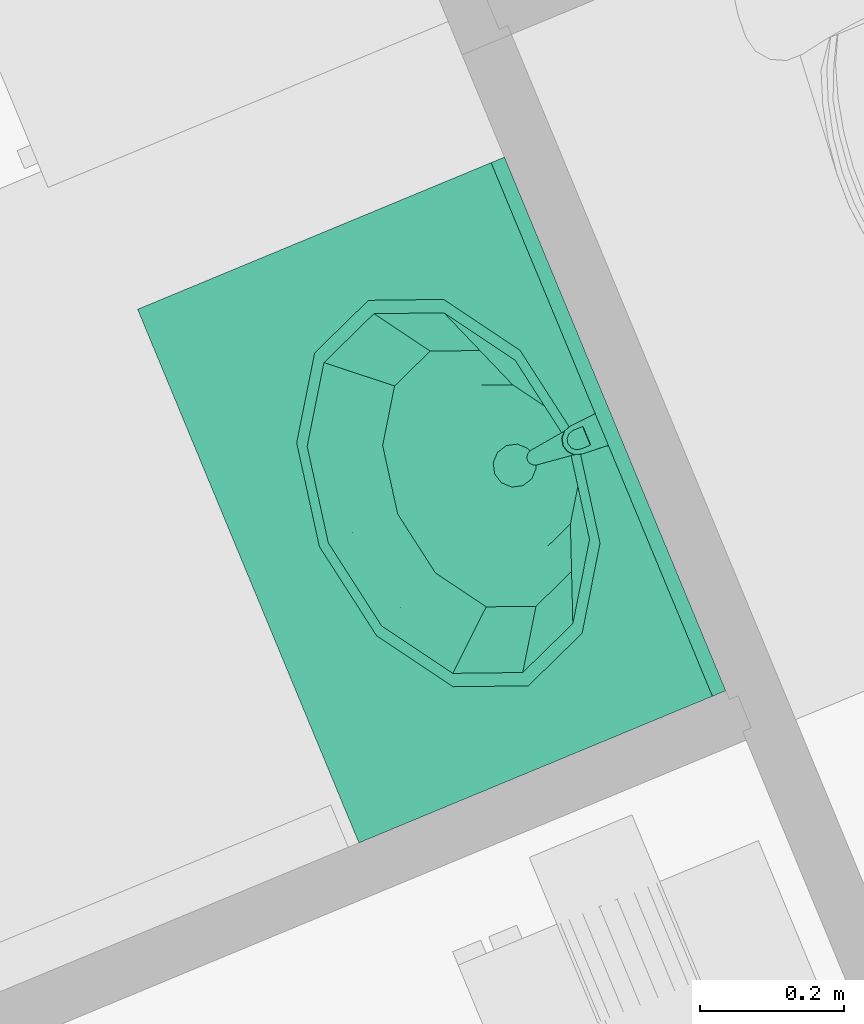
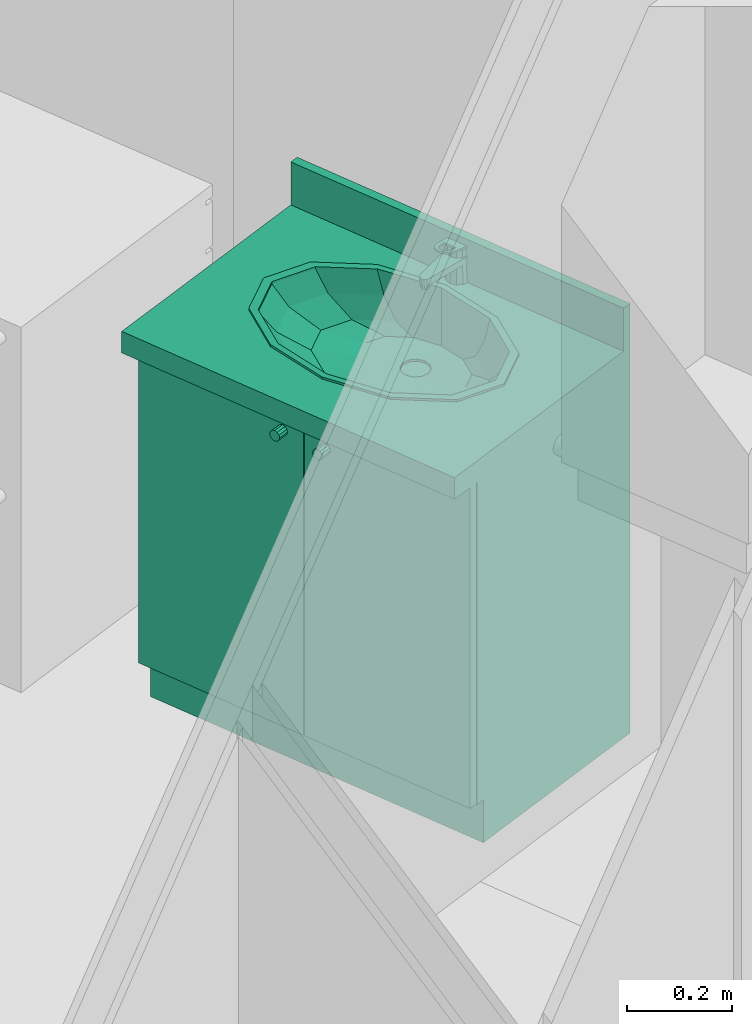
# One storey, part 66 of 91: 1 flow terminal.
"""IFC2X3 building model written with IfcOpenShell, lengths in metres."""

from ifc_helpers import new_model, entity, si_unit, converted_unit, derived_unit, money_unit, direction, frame, origin_with_axes, place, context, subcontext, project, spatial, open_shell, faceted_brep, surface_model, source, transform, mapped, type_object, element, save


model = new_model("IFC2X3")

# Units and contexts
model_context = context("Model", 3, precision=1e-05, world=origin_with_axes(), true_north=direction((0.0, 1.0)))
body_context = subcontext(model_context, "Body", "Model", "MODEL_VIEW")
ifc_project = project(units=[si_unit("LENGTHUNIT", "METRE"), si_unit("AREAUNIT", "SQUARE_METRE"), si_unit("VOLUMEUNIT", "CUBIC_METRE"), converted_unit("PLANEANGLEUNIT", "DEGREE", entity("IfcPlaneAngleMeasure", 0.0174532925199), si_unit("PLANEANGLEUNIT", "RADIAN"), dimensions=[0, 0, 0, 0, 0, 0, 0]), si_unit("SOLIDANGLEUNIT", "STERADIAN"), money_unit("EUR"), converted_unit("TIMEUNIT", "Year", entity("IfcTimeMeasure", 31556926.0), si_unit("TIMEUNIT", "SECOND"), dimensions=[0, 0, 1, 0, 0, 0, 0]), si_unit("MASSUNIT", "GRAM", prefix="KILO"), si_unit("THERMODYNAMICTEMPERATUREUNIT", "DEGREE_CELSIUS"), si_unit("LUMINOUSINTENSITYUNIT", "LUMEN"), si_unit("ENERGYUNIT", "JOULE", prefix="MEGA"), derived_unit("THERMALCONDUCTANCEUNIT", [(si_unit("POWERUNIT", "WATT"), 1), (si_unit("LENGTHUNIT", "METRE"), -1), (si_unit("THERMODYNAMICTEMPERATUREUNIT", "KELVIN"), -1)]), derived_unit("SPECIFICHEATCAPACITYUNIT", [(si_unit("ENERGYUNIT", "JOULE"), 1), (si_unit("MASSUNIT", "GRAM", prefix="KILO"), -1), (si_unit("THERMODYNAMICTEMPERATUREUNIT", "KELVIN"), -1)]), derived_unit("MASSDENSITYUNIT", [(si_unit("MASSUNIT", "GRAM", prefix="KILO"), 1), (si_unit("VOLUMEUNIT", "CUBIC_METRE"), -1)])], contexts=[model_context])

# Site, building, storey
site_placement = place(None, origin_with_axes())
site = spatial("IfcSite", under=ifc_project, at=site_placement, Name="Site", CompositionType="ELEMENT")
building_placement = place(site_placement, origin_with_axes())
building = spatial("IfcBuilding", under=site, at=building_placement, Name="Bâtiment", CompositionType="ELEMENT")
storey_placement = place(building_placement, frame((0.0, 0.0, 5.44), z_axis=(0.0, 0.0, 1.0), x_axis=(1.0, 0.0, 0.0)))
storey = spatial("IfcBuildingStorey", under=building, at=storey_placement, Name="R+2", CompositionType="ELEMENT", Elevation=5.44)

# Flow terminal
sanitary_terminal_type = type_object("IfcSanitaryTerminalType", Name="Lavabo sur meuble 23", PredefinedType="NOTDEFINED")
shared_shape = source(origin_with_axes(), body_context, "Body", "SurfaceModel", [
    faceted_brep([(0.0, 0.09, 0.0), (0.0, 0.09, 0.1), (-0.8, 0.09, 0.1), (-0.8, 0.09, 0.0), (0.0, 0.55, 0.0), (0.0, 0.55, 0.1), (-0.8, 0.55, 0.1), (-0.8, 0.55, 0.0)], [[[0, 1, 2, 3]], [[4, 5, 1, 0]], [[1, 5, 6, 2]], [[3, 2, 6, 7]], [[0, 3, 7, 4]], [[7, 6, 5, 4]]]),
    faceted_brep([(0.0, 0.07, 0.1), (0.0, 0.07, 0.12), (-0.02, 0.07, 0.12), (-0.02, 0.07, 0.1), (0.0, 0.55, 0.1), (0.0, 0.55, 0.12), (-0.02, 0.55, 0.12), (-0.78, 0.55, 0.12), (-0.8, 0.55, 0.12), (-0.8, 0.07, 0.12), (-0.78, 0.07, 0.12), (-0.78, 0.07, 0.1), (-0.8, 0.07, 0.1), (-0.8, 0.55, 0.1), (-0.78, 0.55, 0.1), (-0.02, 0.55, 0.1)], [[[0, 1, 2, 3]], [[4, 5, 1, 0]], [[1, 5, 6, 7, 8, 9, 10, 2]], [[3, 2, 10, 11]], [[0, 3, 11, 12, 13, 14, 15, 4]], [[15, 6, 5, 4]], [[14, 7, 6, 15]], [[13, 8, 7, 14]], [[12, 9, 8, 13]], [[11, 10, 9, 12]]]),
    faceted_brep([(0.0, 0.07, 0.12), (0.0, 0.07, 0.85), (-0.02, 0.07, 0.85), (-0.02, 0.07, 0.12), (0.0, 0.55, 0.12), (0.0, 0.55, 0.85), (-0.8, 0.55, 0.85), (-0.8, 0.07, 0.85), (-0.78, 0.07, 0.85), (-0.78, 0.53, 0.85), (-0.02, 0.53, 0.85), (-0.02, 0.53, 0.12), (-0.78, 0.53, 0.12), (-0.78, 0.07, 0.12), (-0.8, 0.07, 0.12), (-0.8, 0.55, 0.12)], [[[0, 1, 2, 3]], [[4, 5, 1, 0]], [[1, 5, 6, 7, 8, 9, 10, 2]], [[3, 2, 10, 11]], [[0, 3, 11, 12, 13, 14, 15, 4]], [[15, 6, 5, 4]], [[14, 7, 6, 15]], [[13, 8, 7, 14]], [[12, 9, 8, 13]], [[11, 10, 9, 12]]]),
    faceted_brep([(-0.78, 0.07, 0.323333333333), (-0.78, 0.07, 0.343333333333), (-0.78, 0.53, 0.343333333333), (-0.78, 0.53, 0.323333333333), (-0.02, 0.07, 0.323333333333), (-0.02, 0.07, 0.343333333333), (-0.02, 0.53, 0.343333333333), (-0.02, 0.53, 0.323333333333)], [[[0, 1, 2, 3]], [[4, 5, 1, 0]], [[1, 5, 6, 2]], [[3, 2, 6, 7]], [[0, 3, 7, 4]], [[7, 6, 5, 4]]]),
    faceted_brep([(-0.78, 0.07, 0.566666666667), (-0.78, 0.07, 0.586666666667), (-0.78, 0.53, 0.586666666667), (-0.78, 0.53, 0.566666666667), (-0.02, 0.07, 0.566666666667), (-0.02, 0.07, 0.586666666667), (-0.02, 0.53, 0.586666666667), (-0.02, 0.53, 0.566666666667)], [[[0, 1, 2, 3]], [[4, 5, 1, 0]], [[1, 5, 6, 2]], [[3, 2, 6, 7]], [[0, 3, 7, 4]], [[7, 6, 5, 4]]]),
    faceted_brep([(0.0, 0.55, 0.85), (0.0, 0.0, 0.85), (-0.8, 0.0, 0.85), (-0.8, 0.55, 0.85), (-0.535, 0.144115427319, 0.85), (-0.4, 0.12, 0.85), (-0.265, 0.144115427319, 0.85), (-0.166173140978, 0.21, 0.85), (-0.13, 0.3, 0.85), (-0.166173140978, 0.39, 0.85), (-0.265, 0.455884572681, 0.85), (-0.4, 0.48, 0.85), (-0.535, 0.455884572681, 0.85), (-0.633826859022, 0.39, 0.85), (-0.67, 0.3, 0.85), (-0.633826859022, 0.21, 0.85), (0.0, 0.55, 0.9), (0.0, 0.0, 0.9), (-0.8, 0.0, 0.9), (-0.8, 0.55, 0.9), (-0.4, 0.12, 0.9), (-0.535, 0.144115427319, 0.9), (-0.265, 0.144115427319, 0.9), (-0.166173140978, 0.21, 0.9), (-0.13, 0.3, 0.9), (-0.166173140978, 0.39, 0.9), (-0.265, 0.455884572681, 0.9), (-0.4, 0.48, 0.9), (-0.535, 0.455884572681, 0.9), (-0.633826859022, 0.39, 0.9), (-0.67, 0.3, 0.9), (-0.633826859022, 0.21, 0.9)], [[[0, 1, 2, 3], [4, 5, 6, 7, 8, 9, 10, 11, 12, 13, 14, 15]], [[1, 0, 16, 17]], [[2, 1, 17, 18]], [[3, 2, 18, 19]], [[0, 3, 19, 16]], [[20, 5, 4, 21]], [[22, 6, 5, 20]], [[23, 7, 6, 22]], [[24, 8, 7, 23]], [[25, 9, 8, 24]], [[26, 10, 9, 25]], [[27, 11, 10, 26]], [[28, 12, 11, 27]], [[29, 13, 12, 28]], [[30, 14, 13, 29]], [[31, 15, 14, 30]], [[21, 4, 15, 31]], [[18, 17, 16, 19], [28, 27, 26, 25, 24, 23, 22, 20, 21, 31, 30, 29]]]),
    faceted_brep([(0.0, 0.53, 0.9), (0.0, 0.53, 1.0), (-0.8, 0.53, 1.0), (-0.8, 0.53, 0.9), (0.0, 0.55, 0.9), (0.0, 0.55, 1.0), (-0.8, 0.55, 1.0), (-0.8, 0.55, 0.9)], [[[0, 1, 2, 3]], [[4, 5, 1, 0]], [[1, 5, 6, 2]], [[3, 2, 6, 7]], [[0, 3, 7, 4]], [[7, 6, 5, 4]]]),
    faceted_brep([(-0.689, 0.3, 0.905), (-0.650281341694, 0.396691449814, 0.905), (-0.650281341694, 0.396691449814, 0.9), (-0.689, 0.3, 0.9), (-0.650281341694, 0.203308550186, 0.905), (-0.5445, 0.132525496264, 0.905), (-0.4, 0.106617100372, 0.905), (-0.2555, 0.132525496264, 0.905), (-0.149718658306, 0.203308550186, 0.905), (-0.111, 0.3, 0.905), (-0.149718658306, 0.396691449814, 0.905), (-0.2555, 0.467474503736, 0.905), (-0.4, 0.493382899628, 0.905), (-0.5445, 0.467474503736, 0.905), (-0.669, 0.3, 0.905), (-0.632960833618, 0.39, 0.905), (-0.5345, 0.455884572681, 0.905), (-0.4, 0.48, 0.905), (-0.2655, 0.455884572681, 0.905), (-0.167039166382, 0.39, 0.905), (-0.131, 0.3, 0.905), (-0.167039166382, 0.21, 0.905), (-0.2655, 0.144115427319, 0.905), (-0.4, 0.12, 0.905), (-0.5345, 0.144115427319, 0.905), (-0.632960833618, 0.21, 0.905), (-0.5445, 0.467474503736, 0.9), (-0.4, 0.493382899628, 0.9), (-0.2555, 0.467474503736, 0.9), (-0.149718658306, 0.396691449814, 0.9), (-0.111, 0.3, 0.9), (-0.149718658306, 0.203308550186, 0.9), (-0.2555, 0.132525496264, 0.9), (-0.4, 0.106617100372, 0.9), (-0.5445, 0.132525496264, 0.9), (-0.650281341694, 0.203308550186, 0.9), (-0.669, 0.3, 0.9), (-0.632960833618, 0.21, 0.9), (-0.5345, 0.144115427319, 0.9), (-0.4, 0.12, 0.9), (-0.2655, 0.144115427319, 0.9), (-0.167039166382, 0.21, 0.9), (-0.131, 0.3, 0.9), (-0.167039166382, 0.39, 0.9), (-0.2655, 0.455884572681, 0.9), (-0.4, 0.48, 0.9), (-0.5345, 0.455884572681, 0.9), (-0.632960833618, 0.39, 0.9)], [[[0, 1, 2, 3]], [[0, 4, 5, 6, 7, 8, 9, 10, 11, 12, 13, 1], [14, 15, 16, 17, 18, 19, 20, 21, 22, 23, 24, 25]], [[1, 13, 26, 2]], [[3, 2, 26, 27, 28, 29, 30, 31, 32, 33, 34, 35], [36, 37, 38, 39, 40, 41, 42, 43, 44, 45, 46, 47]], [[4, 0, 3, 35]], [[5, 4, 35, 34]], [[6, 5, 34, 33]], [[7, 6, 33, 32]], [[8, 7, 32, 31]], [[9, 8, 31, 30]], [[10, 9, 30, 29]], [[11, 10, 29, 28]], [[12, 11, 28, 27]], [[13, 12, 27, 26]], [[15, 14, 36, 47]], [[16, 15, 47, 46]], [[17, 16, 46, 45]], [[18, 17, 45, 44]], [[19, 18, 44, 43]], [[20, 19, 43, 42]], [[21, 20, 42, 41]], [[22, 21, 41, 40]], [[23, 22, 40, 39]], [[24, 23, 39, 38]], [[25, 24, 38, 37]], [[14, 25, 37, 36]]]),
    surface_model("IfcShellBasedSurfaceModel", [(-0.4, 0.48, 0.9), (-0.5345, 0.455884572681, 0.9), (-0.52105, 0.458296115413, 0.848), (-0.4, 0.48, 0.848), (-0.632960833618, 0.39, 0.9), (-0.609664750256, 0.399, 0.848), (-0.2655, 0.455884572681, 0.9), (-0.27895, 0.458296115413, 0.848), (-0.669, 0.3, 0.9), (-0.6421, 0.318, 0.848), (-0.167039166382, 0.39, 0.9), (-0.190335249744, 0.399, 0.848), (-0.632960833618, 0.21, 0.9), (-0.609664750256, 0.237, 0.848), (-0.131, 0.3, 0.9), (-0.1579, 0.318, 0.848), (-0.5345, 0.144115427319, 0.9), (-0.52105, 0.177703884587, 0.848), (-0.167039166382, 0.21, 0.9), (-0.190335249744, 0.237, 0.848), (-0.4, 0.12, 0.9), (-0.4, 0.156, 0.848), (-0.2655, 0.144115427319, 0.9), (-0.27895, 0.177703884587, 0.848)], [open_shell([[[0, 1, 2, 3]], [[1, 4, 5, 2]], [[6, 0, 3, 7]], [[4, 8, 9, 5]], [[10, 6, 7, 11]], [[8, 12, 13, 9]], [[14, 10, 11, 15]], [[12, 16, 17, 13]], [[18, 14, 15, 19]], [[16, 20, 21, 17]], [[22, 18, 19, 23]], [[20, 22, 23, 21]]])]),
    surface_model("IfcShellBasedSurfaceModel", [(-0.4, 0.48, 0.848), (-0.52105, 0.458296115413, 0.848), (-0.4956295, 0.462853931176, 0.796), (-0.4, 0.48, 0.796), (-0.609664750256, 0.399, 0.848), (-0.565635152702, 0.41601, 0.796), (-0.27895, 0.458296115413, 0.848), (-0.3043705, 0.462853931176, 0.796), (-0.6421, 0.318, 0.848), (-0.591259, 0.35202, 0.796), (-0.190335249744, 0.399, 0.848), (-0.234364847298, 0.41601, 0.796), (-0.609664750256, 0.237, 0.848), (-0.565635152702, 0.28803, 0.796), (-0.1579, 0.318, 0.848), (-0.208741, 0.35202, 0.796), (-0.52105, 0.177703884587, 0.848), (-0.4956295, 0.241186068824, 0.796), (-0.190335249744, 0.237, 0.848), (-0.234364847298, 0.28803, 0.796), (-0.4, 0.156, 0.848), (-0.4, 0.22404, 0.796), (-0.27895, 0.177703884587, 0.848), (-0.3043705, 0.241186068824, 0.796)], [open_shell([[[0, 1, 2, 3]], [[1, 4, 5, 2]], [[6, 0, 3, 7]], [[4, 8, 9, 5]], [[10, 6, 7, 11]], [[8, 12, 13, 9]], [[14, 10, 11, 15]], [[12, 16, 17, 13]], [[18, 14, 15, 19]], [[16, 20, 21, 17]], [[22, 18, 19, 23]], [[20, 22, 23, 21]]])]),
    surface_model("IfcShellBasedSurfaceModel", [(-0.4, 0.48, 0.796), (-0.4956295, 0.462853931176, 0.796), (-0.460246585, 0.469197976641, 0.77), (-0.4, 0.48, 0.77), (-0.565635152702, 0.41601, 0.796), (-0.504350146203, 0.4396863, 0.77), (-0.3043705, 0.462853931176, 0.796), (-0.339753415, 0.469197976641, 0.77), (-0.591259, 0.35202, 0.796), (-0.52049317, 0.3993726, 0.77), (-0.234364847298, 0.41601, 0.796), (-0.295649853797, 0.4396863, 0.77), (-0.565635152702, 0.28803, 0.796), (-0.504350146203, 0.3590589, 0.77), (-0.208741, 0.35202, 0.796), (-0.27950683, 0.3993726, 0.77), (-0.4956295, 0.241186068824, 0.796), (-0.460246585, 0.329547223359, 0.77), (-0.234364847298, 0.28803, 0.796), (-0.295649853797, 0.3590589, 0.77), (-0.4, 0.22404, 0.796), (-0.4, 0.3187452, 0.77), (-0.3043705, 0.241186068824, 0.796), (-0.339753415, 0.329547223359, 0.77)], [open_shell([[[0, 1, 2, 3]], [[1, 4, 5, 2]], [[6, 0, 3, 7]], [[4, 8, 9, 5]], [[10, 6, 7, 11]], [[8, 12, 13, 9]], [[14, 10, 11, 15]], [[12, 16, 17, 13]], [[18, 14, 15, 19]], [[16, 20, 21, 17]], [[22, 18, 19, 23]], [[20, 22, 23, 21]]])]),
    surface_model("IfcShellBasedSurfaceModel", [(-0.4, 0.48, 0.77), (-0.460246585, 0.469197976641, 0.77), (-0.415, 0.425353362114, 0.763), (-0.425980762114, 0.4143726, 0.763), (-0.4, 0.4293726, 0.763), (-0.504350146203, 0.4396863, 0.77), (-0.339753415, 0.469197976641, 0.77), (-0.43, 0.3993726, 0.763), (-0.385, 0.425353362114, 0.763), (-0.52049317, 0.3993726, 0.77), (-0.295649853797, 0.4396863, 0.77), (-0.425980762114, 0.3843726, 0.763), (-0.374019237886, 0.4143726, 0.763), (-0.504350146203, 0.3590589, 0.77), (-0.27950683, 0.3993726, 0.77), (-0.415, 0.373391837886, 0.763), (-0.37, 0.3993726, 0.763), (-0.460246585, 0.329547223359, 0.77), (-0.295649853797, 0.3590589, 0.77), (-0.4, 0.3693726, 0.763), (-0.374019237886, 0.3843726, 0.763), (-0.4, 0.3187452, 0.77), (-0.339753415, 0.329547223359, 0.77), (-0.385, 0.373391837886, 0.763)], [open_shell([[[0, 1, 2]], [[1, 3, 2]], [[0, 2, 4]], [[1, 5, 3]], [[6, 0, 4]], [[5, 7, 3]], [[6, 4, 8]], [[5, 9, 7]], [[10, 6, 8]], [[9, 11, 7]], [[10, 8, 12]], [[9, 13, 11]], [[14, 10, 12]], [[13, 15, 11]], [[14, 12, 16]], [[13, 17, 15]], [[18, 14, 16]], [[17, 19, 15]], [[18, 16, 20]], [[17, 21, 19]], [[22, 18, 20]], [[21, 23, 19]], [[22, 20, 23]], [[21, 22, 23]]])]),
    surface_model("IfcShellBasedSurfaceModel", [(-0.43, 0.3993726, 0.763), (-0.425980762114, 0.4143726, 0.763), (-0.425980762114, 0.4143726, 0.758), (-0.43, 0.3993726, 0.758), (-0.415, 0.425353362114, 0.763), (-0.415, 0.425353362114, 0.758), (-0.4, 0.4293726, 0.758), (-0.385, 0.425353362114, 0.758), (-0.374019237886, 0.4143726, 0.758), (-0.37, 0.3993726, 0.758), (-0.374019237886, 0.3843726, 0.758), (-0.385, 0.373391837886, 0.758), (-0.4, 0.3693726, 0.758), (-0.415, 0.373391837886, 0.758), (-0.425980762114, 0.3843726, 0.758), (-0.425980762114, 0.3843726, 0.763), (-0.4, 0.4293726, 0.763), (-0.385, 0.425353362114, 0.763), (-0.374019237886, 0.4143726, 0.763), (-0.37, 0.3993726, 0.763), (-0.374019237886, 0.3843726, 0.763), (-0.385, 0.373391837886, 0.763), (-0.4, 0.3693726, 0.763), (-0.415, 0.373391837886, 0.763)], [open_shell([[[0, 1, 2, 3]], [[1, 4, 5, 2]], [[3, 2, 5, 6, 7, 8, 9, 10, 11, 12, 13, 14]], [[15, 0, 3, 14]], [[4, 16, 6, 5]], [[16, 17, 7, 6]], [[17, 18, 8, 7]], [[18, 19, 9, 8]], [[19, 20, 10, 9]], [[20, 21, 11, 10]], [[21, 22, 12, 11]], [[22, 23, 13, 12]], [[23, 15, 14, 13]]])]),
    faceted_brep([(-0.4125, 0.554150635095, 0.9), (-0.410587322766, 0.550837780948, 0.976507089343), (-0.4, 0.553701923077, 0.975961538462), (-0.4, 0.5575, 0.9), (-0.421650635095, 0.545, 0.9), (-0.418273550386, 0.543050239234, 0.977990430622), (-0.421, 0.5325, 0.98), (-0.418100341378, 0.522049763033, 0.981990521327), (-0.410414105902, 0.514462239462, 0.983435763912), (-0.4, 0.511698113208, 0.983962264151), (-0.389585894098, 0.514462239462, 0.983435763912), (-0.381899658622, 0.522049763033, 0.981990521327), (-0.379, 0.5325, 0.98), (-0.381726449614, 0.543050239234, 0.977990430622), (-0.389412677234, 0.550837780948, 0.976507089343), (-0.3875, 0.554150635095, 0.9), (-0.378349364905, 0.545, 0.9), (-0.375, 0.5325, 0.9), (-0.378349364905, 0.52, 0.9), (-0.3875, 0.510849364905, 0.9), (-0.4, 0.5075, 0.9), (-0.4125, 0.510849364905, 0.9), (-0.421650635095, 0.52, 0.9), (-0.425, 0.5325, 0.9)], [[[0, 1, 2, 3]], [[4, 5, 1, 0]], [[1, 5, 6, 7, 8, 9, 10, 11, 12, 13, 14, 2]], [[3, 2, 14, 15]], [[0, 3, 15, 16, 17, 18, 19, 20, 21, 22, 23, 4]], [[23, 6, 5, 4]], [[22, 7, 6, 23]], [[21, 8, 7, 22]], [[20, 9, 8, 21]], [[19, 10, 9, 20]], [[18, 11, 10, 19]], [[17, 12, 11, 18]], [[16, 13, 12, 17]], [[15, 14, 13, 16]]]),
    faceted_brep([(-0.409, 0.4295, 0.935), (-0.409, 0.4295, 0.945), (-0.407794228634, 0.434, 0.945), (-0.407794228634, 0.434, 0.935), (-0.407794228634, 0.425, 0.935), (-0.407794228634, 0.425, 0.945), (-0.4045, 0.421705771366, 0.945), (-0.4, 0.4205, 0.945), (-0.3955, 0.421705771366, 0.945), (-0.392205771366, 0.425, 0.945), (-0.391, 0.4295, 0.945), (-0.392205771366, 0.434, 0.945), (-0.3955, 0.437294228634, 0.945), (-0.4, 0.4385, 0.945), (-0.4045, 0.437294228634, 0.945), (-0.4045, 0.437294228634, 0.935), (-0.4, 0.4385, 0.935), (-0.3955, 0.437294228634, 0.935), (-0.392205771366, 0.434, 0.935), (-0.391, 0.4295, 0.935), (-0.392205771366, 0.425, 0.935), (-0.3955, 0.421705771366, 0.935), (-0.4, 0.4205, 0.935), (-0.4045, 0.421705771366, 0.935)], [[[0, 1, 2, 3]], [[4, 5, 1, 0]], [[1, 5, 6, 7, 8, 9, 10, 11, 12, 13, 14, 2]], [[3, 2, 14, 15]], [[0, 3, 15, 16, 17, 18, 19, 20, 21, 22, 23, 4]], [[23, 6, 5, 4]], [[22, 7, 6, 23]], [[21, 8, 7, 22]], [[20, 9, 8, 21]], [[19, 10, 9, 20]], [[18, 11, 10, 19]], [[17, 12, 11, 18]], [[16, 13, 12, 17]], [[15, 14, 13, 16]]]),
    faceted_brep([(-0.387128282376, 0.552756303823, 0.96), (-0.40000000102, 0.556499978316, 0.96), (-0.412871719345, 0.552756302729, 0.96), (-0.421727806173, 0.542693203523, 0.96), (-0.423805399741, 0.529450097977, 0.96), (-0.410912, 0.4281117, 0.96), (-0.409028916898, 0.423216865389, 0.96), (-0.405093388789, 0.419750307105, 0.96), (-0.400000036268, 0.41850003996, 0.96), (-0.394906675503, 0.419750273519, 0.96), (-0.390971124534, 0.423216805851, 0.96), (-0.389088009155, 0.428111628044, 0.96), (-0.3761946, 0.5294501, 0.96), (-0.378272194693, 0.54269320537, 0.96), (-0.411, 0.551552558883, 0.96), (-0.4, 0.5545, 0.96), (-0.389, 0.551552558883, 0.96), (-0.380947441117, 0.5435, 0.96), (-0.378, 0.5325, 0.96), (-0.380947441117, 0.5215, 0.96), (-0.389, 0.513447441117, 0.96), (-0.4, 0.5105, 0.96), (-0.411, 0.513447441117, 0.96), (-0.419052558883, 0.5215, 0.96), (-0.422, 0.5325, 0.96), (-0.419052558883, 0.5435, 0.96), (-0.387128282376, 0.552756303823, 0.945), (-0.40000000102, 0.556499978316, 0.945), (-0.412871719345, 0.552756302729, 0.945), (-0.421727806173, 0.542693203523, 0.945), (-0.423805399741, 0.529450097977, 0.945), (-0.410912, 0.4281117, 0.945), (-0.409028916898, 0.423216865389, 0.945), (-0.405093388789, 0.419750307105, 0.945), (-0.400000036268, 0.41850003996, 0.945), (-0.394906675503, 0.419750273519, 0.945), (-0.390971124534, 0.423216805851, 0.945), (-0.389088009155, 0.428111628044, 0.945), (-0.3761946, 0.5294501, 0.945), (-0.378272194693, 0.54269320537, 0.945), (-0.4, 0.55525, 0.945), (-0.411375, 0.552202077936, 0.945), (-0.388625, 0.552202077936, 0.945), (-0.380297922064, 0.543875, 0.945), (-0.37725, 0.5325, 0.945), (-0.380297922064, 0.521125, 0.945), (-0.388625, 0.512797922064, 0.945), (-0.4, 0.50975, 0.945), (-0.411375, 0.512797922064, 0.945), (-0.419702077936, 0.521125, 0.945), (-0.42275, 0.5325, 0.945), (-0.419702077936, 0.543875, 0.945)], [[[0, 1, 2, 3, 4, 5, 6, 7, 8, 9, 10, 11, 12, 13], [14, 15, 16, 17, 18, 19, 20, 21, 22, 23, 24, 25]], [[26, 27, 1, 0]], [[27, 28, 2, 1]], [[28, 29, 3, 2]], [[29, 30, 4, 3]], [[30, 31, 5, 4]], [[31, 32, 6, 5]], [[32, 33, 7, 6]], [[33, 34, 8, 7]], [[34, 35, 9, 8]], [[35, 36, 10, 9]], [[36, 37, 11, 10]], [[37, 38, 12, 11]], [[38, 39, 13, 12]], [[39, 26, 0, 13]], [[40, 15, 14, 41]], [[42, 16, 15, 40]], [[16, 42, 43, 17]], [[17, 43, 44, 18]], [[18, 44, 45, 19]], [[19, 45, 46, 20]], [[20, 46, 47, 21]], [[48, 22, 21, 47]], [[49, 23, 22, 48]], [[50, 24, 23, 49]], [[51, 25, 24, 50]], [[41, 14, 25, 51]], [[34, 33, 32, 31, 30, 29, 28, 27, 26, 39, 38, 37, 36, 35], [48, 47, 46, 45, 44, 43, 42, 40, 41, 51, 50, 49]]]),
    faceted_brep([(-0.423893, 0.53080743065, 0.980322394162), (-0.423893, 0.531555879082, 0.984251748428), (-0.421296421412, 0.544023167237, 0.981877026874), (-0.421296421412, 0.543274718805, 0.977947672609), (-0.420945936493, 0.490663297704, 0.987968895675), (-0.420945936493, 0.491411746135, 0.991898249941), (-0.417663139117, 0.48173408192, 0.993741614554), (-0.410061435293, 0.47478470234, 0.995065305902), (-0.399999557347, 0.472262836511, 0.995545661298), (-0.389937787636, 0.474785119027, 0.995065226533), (-0.382336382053, 0.481734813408, 0.993741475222), (-0.379054, 0.491412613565, 0.991898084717), (-0.376106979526, 0.531556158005, 0.984251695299), (-0.378703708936, 0.544023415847, 0.98187697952), (-0.38752831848, 0.553339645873, 0.980102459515), (-0.400000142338, 0.556780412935, 0.979447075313), (-0.41247192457, 0.553339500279, 0.980102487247), (-0.414, 0.507707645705, 0.988794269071), (-0.386, 0.507707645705, 0.988794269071), (-0.386, 0.492892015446, 0.991616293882), (-0.387875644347, 0.486015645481, 0.992926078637), (-0.393, 0.480981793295, 0.993884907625), (-0.4, 0.479139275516, 0.994235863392), (-0.407, 0.480981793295, 0.993884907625), (-0.412124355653, 0.486015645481, 0.992926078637), (-0.414, 0.492892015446, 0.991616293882), (-0.41247192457, 0.552591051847, 0.976173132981), (-0.400000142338, 0.556031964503, 0.975517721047), (-0.38752831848, 0.552591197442, 0.976173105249), (-0.378703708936, 0.543274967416, 0.977947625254), (-0.376106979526, 0.530807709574, 0.980322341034), (-0.379054, 0.490664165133, 0.987968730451), (-0.382336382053, 0.480986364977, 0.989812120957), (-0.389937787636, 0.474036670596, 0.991135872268), (-0.399999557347, 0.47151438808, 0.991616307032), (-0.410061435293, 0.474036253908, 0.991135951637), (-0.417663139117, 0.480985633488, 0.989812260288), (-0.414, 0.506959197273, 0.984864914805), (-0.414, 0.492143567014, 0.987686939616), (-0.412124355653, 0.485267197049, 0.988996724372), (-0.407, 0.480233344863, 0.989955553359), (-0.4, 0.478390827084, 0.990306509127), (-0.393, 0.480233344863, 0.989955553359), (-0.387875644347, 0.485267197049, 0.988996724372), (-0.386, 0.492143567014, 0.987686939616), (-0.386, 0.506959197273, 0.984864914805)], [[[0, 1, 2, 3]], [[4, 5, 1, 0]], [[1, 5, 6, 7, 8, 9, 10, 11, 12, 13, 14, 15, 16, 2], [17, 18, 19, 20, 21, 22, 23, 24, 25]], [[3, 2, 16, 26]], [[0, 3, 26, 27, 28, 29, 30, 31, 32, 33, 34, 35, 36, 4], [37, 38, 39, 40, 41, 42, 43, 44, 45]], [[36, 6, 5, 4]], [[35, 7, 6, 36]], [[34, 8, 7, 35]], [[33, 9, 8, 34]], [[32, 10, 9, 33]], [[31, 11, 10, 32]], [[30, 12, 11, 31]], [[29, 13, 12, 30]], [[28, 14, 13, 29]], [[27, 15, 14, 28]], [[26, 16, 15, 27]], [[45, 18, 17, 37]], [[44, 19, 18, 45]], [[43, 20, 19, 44]], [[42, 21, 20, 43]], [[41, 22, 21, 42]], [[40, 23, 22, 41]], [[39, 24, 23, 40]], [[38, 25, 24, 39]], [[37, 17, 25, 38]]]),
    faceted_brep([(-0.0015, 0.07, 0.1015), (-0.0015, 0.05, 0.1015), (-0.3985, 0.05, 0.1015), (-0.3985, 0.07, 0.1015), (-0.0015, 0.07, 0.8485), (-0.0015, 0.05, 0.8485), (-0.3985, 0.05, 0.8485), (-0.3985, 0.07, 0.8485)], [[[0, 1, 2, 3]], [[4, 5, 1, 0]], [[1, 5, 6, 2]], [[3, 2, 6, 7]], [[0, 3, 7, 4]], [[7, 6, 5, 4]]]),
    faceted_brep([(-0.358892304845, 0.05, 0.7855), (-0.3605, 0.05, 0.7915), (-0.358892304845, 0.05, 0.7975), (-0.3545, 0.05, 0.801892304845), (-0.3485, 0.05, 0.8035), (-0.3425, 0.05, 0.801892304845), (-0.338107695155, 0.05, 0.7975), (-0.3365, 0.05, 0.7915), (-0.338107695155, 0.05, 0.7855), (-0.3425, 0.05, 0.781107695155), (-0.3485, 0.05, 0.7795), (-0.3545, 0.05, 0.781107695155), (-0.358892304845, 0.025, 0.7855), (-0.3605, 0.025, 0.7915), (-0.358892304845, 0.025, 0.7975), (-0.3545, 0.025, 0.801892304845), (-0.3485, 0.025, 0.8035), (-0.3425, 0.025, 0.801892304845), (-0.338107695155, 0.025, 0.7975), (-0.3365, 0.025, 0.7915), (-0.338107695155, 0.025, 0.7855), (-0.3425, 0.025, 0.781107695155), (-0.3485, 0.025, 0.7795), (-0.3545, 0.025, 0.781107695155)], [[[0, 1, 2, 3, 4, 5, 6, 7, 8, 9, 10, 11]], [[0, 12, 13, 1]], [[1, 13, 14, 2]], [[2, 14, 15, 3]], [[3, 15, 16, 4]], [[4, 16, 17, 5]], [[5, 17, 18, 6]], [[6, 18, 19, 7]], [[7, 19, 20, 8]], [[8, 20, 21, 9]], [[9, 21, 22, 10]], [[10, 22, 23, 11]], [[11, 23, 12, 0]], [[12, 23, 22, 21, 20, 19, 18, 17, 16, 15, 14, 13]]]),
    faceted_brep([(-0.7985, 0.07, 0.1015), (-0.4015, 0.07, 0.1015), (-0.4015, 0.05, 0.1015), (-0.7985, 0.05, 0.1015), (-0.7985, 0.07, 0.8485), (-0.4015, 0.07, 0.8485), (-0.4015, 0.05, 0.8485), (-0.7985, 0.05, 0.8485)], [[[0, 1, 2, 3]], [[0, 4, 5, 1]], [[1, 5, 6, 2]], [[3, 2, 6, 7]], [[4, 0, 3, 7]], [[5, 4, 7, 6]]]),
    faceted_brep([(-0.441107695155, 0.05, 0.7855), (-0.4455, 0.05, 0.781107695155), (-0.4515, 0.05, 0.7795), (-0.4575, 0.05, 0.781107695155), (-0.461892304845, 0.05, 0.7855), (-0.4635, 0.05, 0.7915), (-0.461892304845, 0.05, 0.7975), (-0.4575, 0.05, 0.801892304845), (-0.4515, 0.05, 0.8035), (-0.4455, 0.05, 0.801892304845), (-0.441107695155, 0.05, 0.7975), (-0.4395, 0.05, 0.7915), (-0.441107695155, 0.025, 0.7855), (-0.4455, 0.025, 0.781107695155), (-0.4515, 0.025, 0.7795), (-0.4575, 0.025, 0.781107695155), (-0.461892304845, 0.025, 0.7855), (-0.4635, 0.025, 0.7915), (-0.461892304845, 0.025, 0.7975), (-0.4575, 0.025, 0.801892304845), (-0.4515, 0.025, 0.8035), (-0.4455, 0.025, 0.801892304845), (-0.441107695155, 0.025, 0.7975), (-0.4395, 0.025, 0.7915)], [[[0, 1, 2, 3, 4, 5, 6, 7, 8, 9, 10, 11]], [[1, 0, 12, 13]], [[2, 1, 13, 14]], [[3, 2, 14, 15]], [[4, 3, 15, 16]], [[5, 4, 16, 17]], [[6, 5, 17, 18]], [[7, 6, 18, 19]], [[8, 7, 19, 20]], [[9, 8, 20, 21]], [[10, 9, 21, 22]], [[11, 10, 22, 23]], [[0, 11, 23, 12]], [[12, 23, 22, 21, 20, 19, 18, 17, 16, 15, 14, 13]]]),
])
flow_terminal_placement = place(storey_placement, frame((-25.0759076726, -20.9088865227, 0.0), z_axis=(0.0, 0.0, 1.0), x_axis=(0.383112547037, -0.923701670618, 0.0)))
element("IfcFlowTerminal", 1, at=flow_terminal_placement, inside=storey, type_object=sanitary_terminal_type, Name="MOB-002", ObjectType="SANITARY_TERMINAL", context=body_context, shape_type="MappedRepresentation", body=[
    mapped(shared_shape, transform((0.0, 0.0, 0.0))),
])

save(model, "model.ifc")
